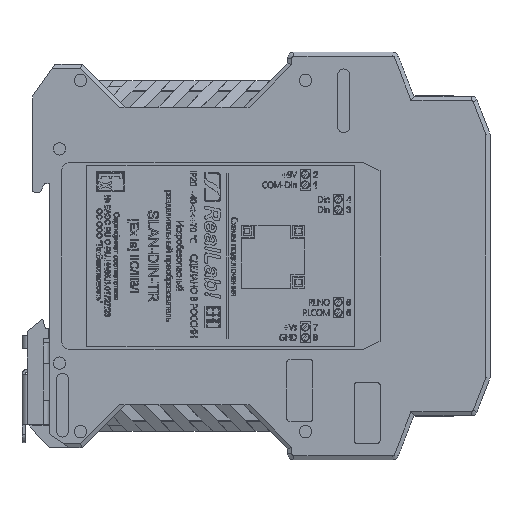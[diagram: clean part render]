
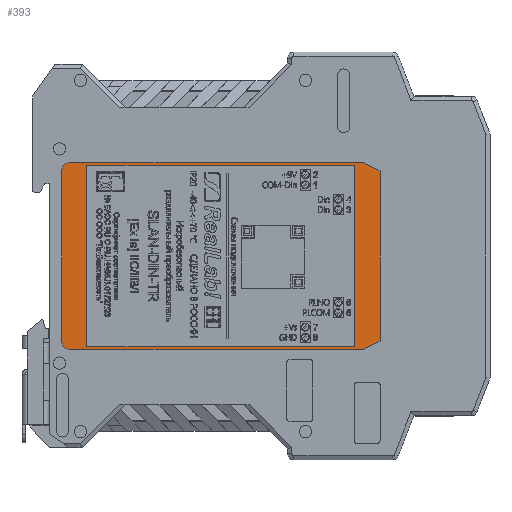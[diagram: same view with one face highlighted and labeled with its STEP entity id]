
A CAD part, front view. The second image highlights one B-rep face of the part: STEP entity #393.
In plain terms, the highlighted planar face has unit normal (0, -1, 0).
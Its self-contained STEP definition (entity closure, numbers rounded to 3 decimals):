
#393=ADVANCED_FACE('',(#62341,#62343),#62345,.T.);
#62341=FACE_BOUND('',#62342,.T.);
#62342=EDGE_LOOP('',(#110812,#110813,#110814,#110815,#110816,#110817,#110818,#110819));
#62343=FACE_BOUND('',#62344,.T.);
#62344=EDGE_LOOP('',(#110820,#110821,#110822,#110823));
#62345=PLANE('',#62346);
#62346=AXIS2_PLACEMENT_3D('',#62347,#62348,#62349);
#62347=CARTESIAN_POINT('',(103.85,0.2,0.));
#62348=DIRECTION('',(0.,-1.,0.));
#62349=DIRECTION('',(0.,0.,-1.));
#110812=ORIENTED_EDGE('',*,*,#162274,.T.);
#110813=ORIENTED_EDGE('',*,*,#162275,.T.);
#110814=ORIENTED_EDGE('',*,*,#162276,.T.);
#110815=ORIENTED_EDGE('',*,*,#162277,.T.);
#110816=ORIENTED_EDGE('',*,*,#162278,.T.);
#110817=ORIENTED_EDGE('',*,*,#162279,.F.);
#110818=ORIENTED_EDGE('',*,*,#162280,.T.);
#110819=ORIENTED_EDGE('',*,*,#162281,.F.);
#110820=ORIENTED_EDGE('',*,*,#162070,.T.);
#110821=ORIENTED_EDGE('',*,*,#162060,.T.);
#110822=ORIENTED_EDGE('',*,*,#162064,.T.);
#110823=ORIENTED_EDGE('',*,*,#162067,.T.);
#162060=EDGE_CURVE('',#182010,#182011,#182012,.T.);
#162064=EDGE_CURVE('',#182011,#182018,#182019,.T.);
#162067=EDGE_CURVE('',#182018,#182023,#182024,.T.);
#162070=EDGE_CURVE('',#182023,#182010,#182028,.T.);
#162274=EDGE_CURVE('',#182404,#182405,#182406,.T.);
#162275=EDGE_CURVE('',#182405,#182407,#182408,.T.);
#162276=EDGE_CURVE('',#182407,#182409,#182410,.T.);
#162277=EDGE_CURVE('',#182409,#182411,#182412,.T.);
#162278=EDGE_CURVE('',#182411,#182413,#182414,.T.);
#162279=EDGE_CURVE('',#182415,#182413,#182416,.T.);
#162280=EDGE_CURVE('',#182415,#182417,#182418,.T.);
#162281=EDGE_CURVE('',#182404,#182417,#182419,.T.);
#182010=VERTEX_POINT('',#214557);
#182011=VERTEX_POINT('',#214558);
#182012=LINE('',#214559,#214560);
#182018=VERTEX_POINT('',#214573);
#182019=LINE('',#214574,#214575);
#182023=VERTEX_POINT('',#214584);
#182024=LINE('',#214585,#214586);
#182028=LINE('',#214595,#214596);
#182404=VERTEX_POINT('',#215387);
#182405=VERTEX_POINT('',#215388);
#182406=LINE('',#215389,#215390);
#182407=VERTEX_POINT('',#215392);
#182408=LINE('',#215393,#215394);
#182409=VERTEX_POINT('',#215396);
#182410=LINE('',#215397,#215398);
#182411=VERTEX_POINT('',#215400);
#182412=LINE('',#215401,#215402);
#182413=VERTEX_POINT('',#215404);
#182414=LINE('',#215405,#215406);
#182415=VERTEX_POINT('',#215408);
#182416=CIRCLE('',#215409,2.);
#182417=VERTEX_POINT('',#215413);
#182418=LINE('',#215414,#215415);
#182419=CIRCLE('',#215417,2.);
#214557=CARTESIAN_POINT('',(74.15,0.2,-22.));
#214558=CARTESIAN_POINT('',(9.15,0.2,-22.));
#214559=CARTESIAN_POINT('',(74.15,0.2,-22.));
#214560=VECTOR('',#214561,1.);
#214561=DIRECTION('',(-1.,0.,0.));
#214573=CARTESIAN_POINT('',(9.15,0.2,22.));
#214574=CARTESIAN_POINT('',(9.15,0.2,-22.));
#214575=VECTOR('',#214576,1.);
#214576=DIRECTION('',(0.,0.,1.));
#214584=CARTESIAN_POINT('',(74.15,0.2,22.));
#214585=CARTESIAN_POINT('',(9.15,0.2,22.));
#214586=VECTOR('',#214587,1.);
#214587=DIRECTION('',(1.,0.,0.));
#214595=CARTESIAN_POINT('',(74.15,0.2,22.));
#214596=VECTOR('',#214597,1.);
#214597=DIRECTION('',(0.,0.,-1.));
#215387=CARTESIAN_POINT('',(5.,0.2,-22.65));
#215388=CARTESIAN_POINT('',(76.3,0.2,-22.65));
#215389=CARTESIAN_POINT('',(5.,0.2,-22.65));
#215390=VECTOR('',#215391,1.);
#215391=DIRECTION('',(1.,0.,0.));
#215392=CARTESIAN_POINT('',(80.3,0.2,-20.65));
#215393=CARTESIAN_POINT('',(76.3,0.2,-22.65));
#215394=VECTOR('',#215395,1.);
#215395=DIRECTION('',(0.894,0.,0.447));
#215396=CARTESIAN_POINT('',(80.3,0.2,20.65));
#215397=CARTESIAN_POINT('',(80.3,0.2,-20.65));
#215398=VECTOR('',#215399,1.);
#215399=DIRECTION('',(0.,0.,1.));
#215400=CARTESIAN_POINT('',(76.3,0.2,22.65));
#215401=CARTESIAN_POINT('',(80.3,0.2,20.65));
#215402=VECTOR('',#215403,1.);
#215403=DIRECTION('',(-0.894,0.,0.447));
#215404=CARTESIAN_POINT('',(5.,0.2,22.65));
#215405=CARTESIAN_POINT('',(76.3,0.2,22.65));
#215406=VECTOR('',#215407,1.);
#215407=DIRECTION('',(-1.,0.,0.));
#215408=CARTESIAN_POINT('',(3.,0.2,20.65));
#215409=AXIS2_PLACEMENT_3D('',#215410,#215411,#215412);
#215410=CARTESIAN_POINT('',(5.,0.2,20.65));
#215411=DIRECTION('',(0.,1.,0.));
#215412=DIRECTION('',(-1.,0.,0.));
#215413=CARTESIAN_POINT('',(3.,0.2,-20.65));
#215414=CARTESIAN_POINT('',(3.,0.2,20.65));
#215415=VECTOR('',#215416,1.);
#215416=DIRECTION('',(0.,0.,-1.));
#215417=AXIS2_PLACEMENT_3D('',#215418,#215419,#215420);
#215418=CARTESIAN_POINT('',(5.,0.2,-20.65));
#215419=DIRECTION('',(0.,1.,0.));
#215420=DIRECTION('',(0.,0.,-1.));
